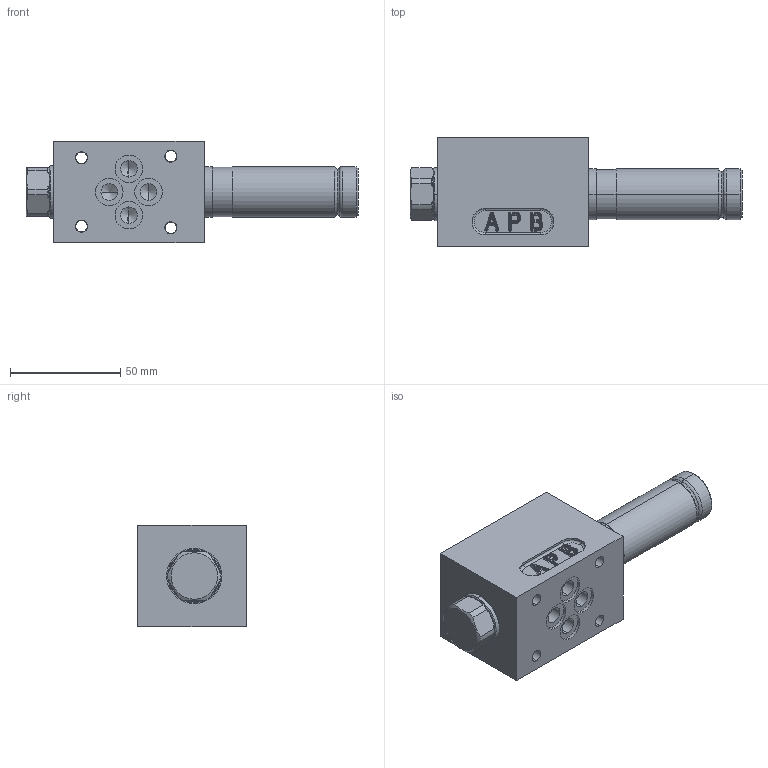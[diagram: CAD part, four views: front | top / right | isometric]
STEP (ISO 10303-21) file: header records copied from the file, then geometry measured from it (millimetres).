
FILE_DESCRIPTION (( 'STEP AP214' ), '1' );
FILE_NAME ('WDMFA06-4_2-Bside.STEP', '2015-10-22T08:15:12', ( '' ), ( '' ), 'SwSTEP 2.0', 'SolidWorks 2014', '' );
FILE_SCHEMA (( 'AUTOMOTIVE_DESIGN' ));
Length unit declared in the file: millimetre
Products named in the file (2): WDMFA06-4_2-Bside
Bounding box: 150.3 x 49 x 46 mm (x, y, z)
Volume: 177592.3 mm3; surface area: 32410.3 mm2
Topology: 5 solids, 5 shells, 521 faces, 1193 edges, 662 vertices
Faces by surface type: cylinder 217, plane 94, torus 77, sphere 57, bspline 52, cone 24
Entity records: 23102 total; most frequent: CARTESIAN_POINT 5844, DIRECTION 2575, ORIENTED_EDGE 2278, EDGE_CURVE 1139, AXIS2_PLACEMENT_3D 1089, VERTEX_POINT 661, CIRCLE 618, EDGE_LOOP 570
